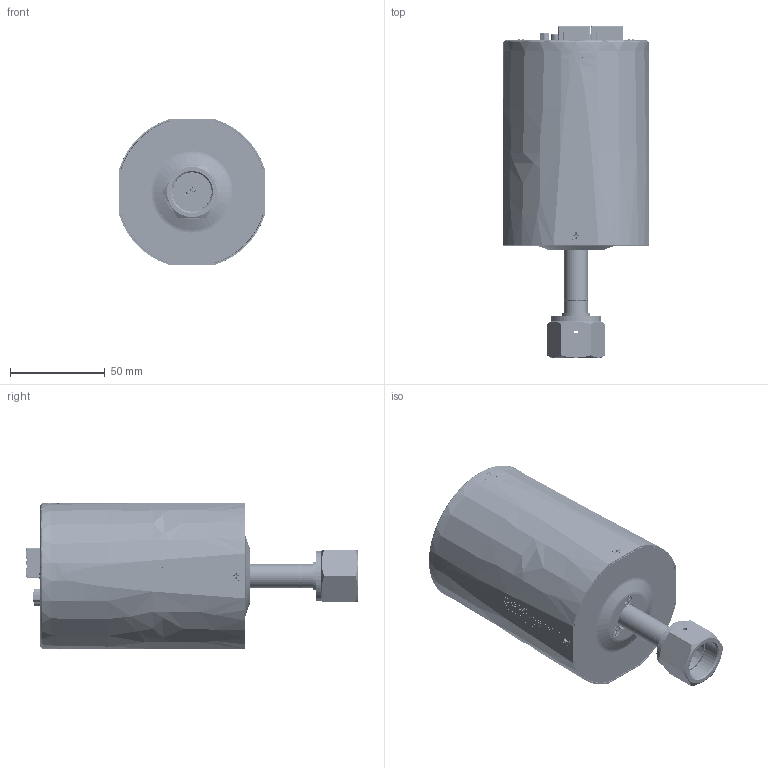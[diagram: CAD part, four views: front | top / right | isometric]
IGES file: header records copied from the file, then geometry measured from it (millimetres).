
Start section: SolidWorks IGES file using analytic representation for surfaces
Global section: file name: C:\Users\eearnest\OneDrive - Illinois Tool Works, Inc\Documents\DMX\DMX001 Assembly\DMX Customer Models\DMXA10xxxEx4xxxx.IGS; native system: SolidWorks 2023; preprocessor: SolidWorks 2023; author: EEarnest; date: 250319.153137; units: inch
Bounding box: 77.51 x 175.62 x 77.51 mm (x, y, z)
Surface area: 107065.5 mm2 (no closed solid volume)
Topology: 0 solids, 0 shells, 6801 faces, 54057 edges, 54048 vertices
Faces by surface type: bspline 5251, revolution 1550
